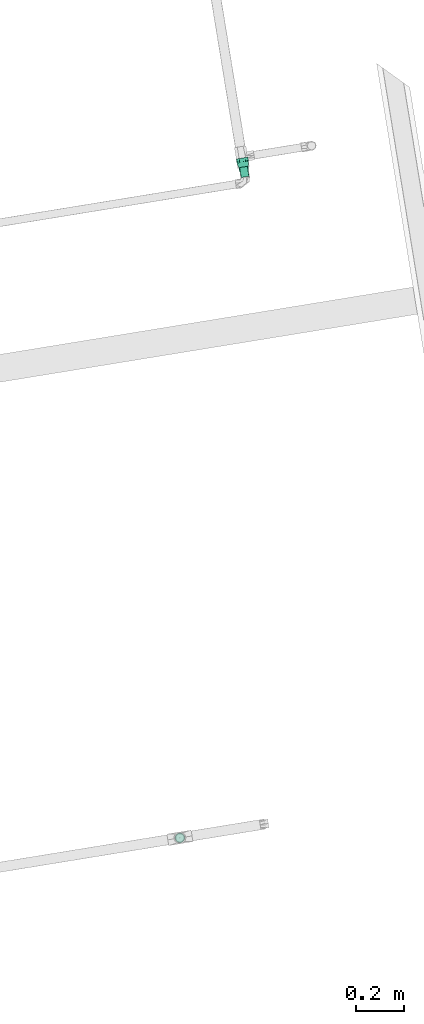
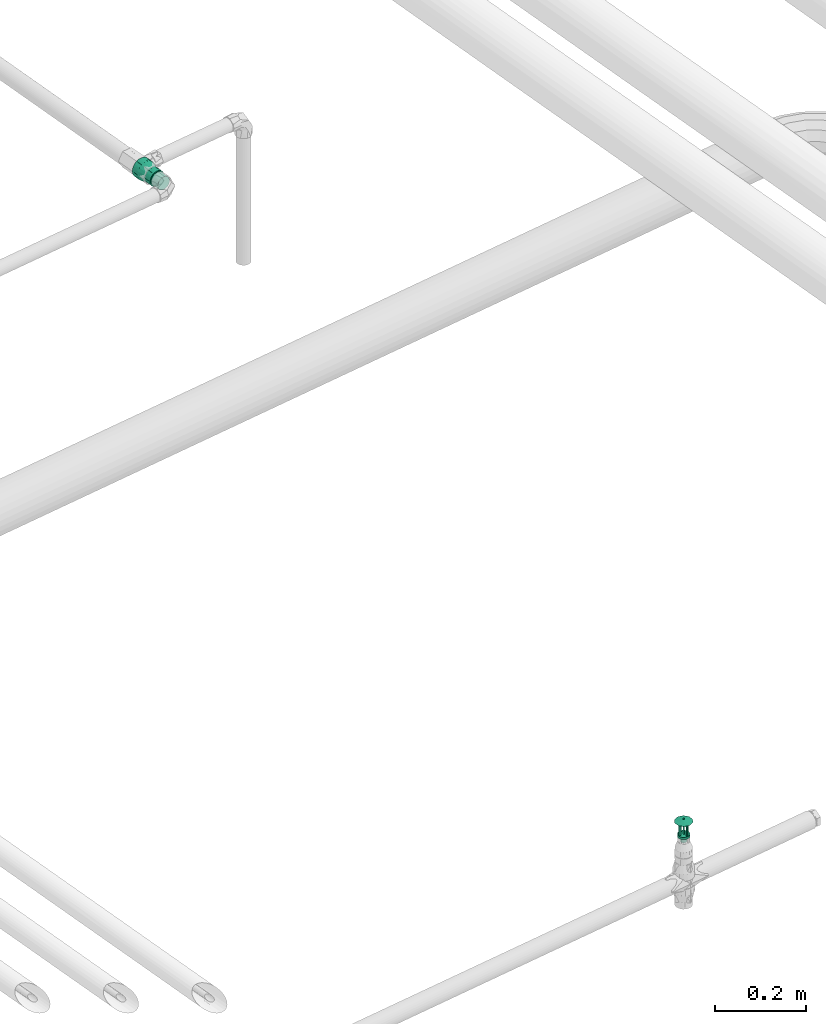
# One storey, part 40 of 46: 1 flow fitting, 1 flow segment, 1 flow terminal.
"""IFC2X3 building model written with IfcOpenShell, lengths in millimetres."""

from ifc_helpers import new_model, entity, si_unit, converted_unit, derived_unit, direction, frame, origin, origin_with_axes, origin_2d_with_axis, place, context, subcontext, project, spatial, circle, extrude, faceted_brep, source, transform, mapped, material, type_object, element, save


model = new_model("IFC2X3")

# Units and contexts
model_context = context("Model", 3, precision=0.01, world=origin(), true_north=direction((6.12323399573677e-17, 1.0)))
plan_context = context("Plan", 3, precision=1e-05, world=origin_with_axes())
body_context = subcontext(model_context, "Body", "Model", "MODEL_VIEW")
ifc_project = project(units=[converted_unit("PLANEANGLEUNIT", "DEGREE", entity("IfcPositiveLengthMeasure", 0.0174532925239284), si_unit("PLANEANGLEUNIT", "RADIAN"), dimensions=[0, 0, 0, 0, 0, 0, 0]), si_unit("AREAUNIT", "SQUARE_METRE"), si_unit("LENGTHUNIT", "METRE", prefix="MILLI"), si_unit("MASSUNIT", "GRAM", prefix="KILO"), si_unit("POWERUNIT", "WATT"), si_unit("PRESSUREUNIT", "PASCAL", prefix="KILO"), si_unit("FORCEUNIT", "NEWTON", prefix="KILO"), si_unit("ELECTRICVOLTAGEUNIT", "VOLT"), si_unit("ELECTRICCURRENTUNIT", "AMPERE"), si_unit("THERMODYNAMICTEMPERATUREUNIT", "DEGREE_CELSIUS"), si_unit("TIMEUNIT", "SECOND"), si_unit("VOLUMEUNIT", "CUBIC_METRE"), derived_unit("LINEARVELOCITYUNIT", [(si_unit("LENGTHUNIT", "METRE"), 1), (si_unit("TIMEUNIT", "SECOND"), -1)]), derived_unit("VOLUMETRICFLOWRATEUNIT", [(si_unit("VOLUMEUNIT", "CUBIC_METRE"), 1), (si_unit("TIMEUNIT", "SECOND"), -1)]), derived_unit("THERMALTRANSMITTANCEUNIT", [(si_unit("POWERUNIT", "WATT"), 1), (si_unit("THERMODYNAMICTEMPERATUREUNIT", "KELVIN"), -1), (si_unit("AREAUNIT", "SQUARE_METRE"), -1)]), derived_unit("SOUNDPRESSUREUNIT", [(si_unit("PRESSUREUNIT", "PASCAL"), 1)])], contexts=[model_context, plan_context])

# Site, building, storey
site_placement = place(None, frame((-3.09682673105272e-06, 1.93776733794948e-05, 0.0), z_axis=(0.0, 0.0, 1.0), x_axis=(-0.160806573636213, 0.986985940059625, 0.0)))
site = spatial("IfcSite", under=ifc_project, at=site_placement, Name="Default", CompositionType="ELEMENT")
building_placement = place(site_placement, frame((0.0, 0.0, 0.0), z_axis=(0.0, 0.0, 1.0), x_axis=(1.0, -2.77555756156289e-17, 0.0)))
building = spatial("IfcBuilding", under=site, at=building_placement, Name="Bygning (endres i Project Information)", CompositionType="ELEMENT")
storey_placement = place(building_placement, frame((0.0, 0.0, 51360.0000000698), z_axis=(0.0, 0.0, 1.0), x_axis=(1.0, -2.77555756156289e-17, 0.0)))
storey = spatial("IfcBuildingStorey", under=building, at=storey_placement, Name="H01-Nivå D+0,36", CompositionType="ELEMENT", Elevation=51360.0000000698)

# Flow fitting
ifc_material = material(Name="3320.001")
pipe_fitting_type = type_object("IfcPipeFittingType", Name="RS_53_PIF_UN_Reducing-Socket-EN10241_MC_gen:RS_53_PIF_UN_Reducing-Socket-EN10241_MC_gen", PredefinedType="NOTDEFINED", material=ifc_material)
shared_shape_1 = source(origin(), body_context, "Body", "Brep", [
    faceted_brep([(0.0, 0.0, 24.5), (0.0, 6.34106660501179, 23.6651827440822), (0.0, 12.25, 21.2176223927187), (0.0, 17.3241161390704, 17.3241161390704), (0.0, 21.2176223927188, 12.25), (0.0, 23.6651827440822, 6.34106660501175), (0.0, 24.5, 0.0), (0.0, 23.6651827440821, -6.34106660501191), (0.0, 21.2176223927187, -12.2500000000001), (0.0, 17.3241161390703, -17.3241161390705), (0.0, 12.2499999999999, -21.2176223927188), (0.0, 6.34106660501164, -23.6651827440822), (0.0, 0.0, -24.5), (0.0, -6.34106660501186, -23.6651827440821), (0.0, -12.2500000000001, -21.2176223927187), (0.0, -17.3241161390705, -17.3241161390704), (0.0, -21.2176223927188, -12.2499999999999), (0.0, -23.6651827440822, -6.34106660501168), (0.0, -24.5, 0.0), (0.0, -23.6651827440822, 6.34106660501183), (0.0, -21.2176223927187, 12.2500000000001), (0.0, -17.3241161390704, 17.3241161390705), (0.0, -12.25, 21.2176223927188), (0.0, -6.34106660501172, 23.6651827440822), (18.6666666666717, -8.25137606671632, -22.6729794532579), (18.6666666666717, -18.7677686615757, -15.7486780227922), (18.6666666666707, -20.8950763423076, -12.0642027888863), (18.6666666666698, -23.0223840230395, -8.37972755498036), (18.6666666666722, -12.2493529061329, -21.2179959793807), (18.6666666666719, -15.5085607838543, -18.4833370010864), (18.6666666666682, -23.7125607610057, -4.46565710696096), (18.6666666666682, -23.7611920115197, -4.18986377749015), (18.6666666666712, -4.25339922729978, -24.1279629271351), (18.6666666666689, 4.25560674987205, -24.1275736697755), (18.6666666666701, 0.00110376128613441, -24.1277682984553), (18.6666666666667, -24.5, 0.0), (18.6666666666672, 8.25345045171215, -22.6722244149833), (18.6666666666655, 12.2512941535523, -21.2168751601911), (18.6666666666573, 23.0231506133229, -8.37762113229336), (18.6666666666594, 20.8961800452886, -12.062290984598), (18.6666666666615, 18.7692094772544, -15.7469608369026), (18.6666666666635, 15.5102518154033, -18.4819179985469), (18.6666666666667, 24.5, 0.0), (18.6666666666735, 18.7692094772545, 15.7469608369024), (18.666666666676, 20.8961800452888, 12.0622909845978), (18.6666666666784, 23.023150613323, 8.3776211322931), (18.6666666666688, 12.2512941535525, 21.216875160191), (18.6666666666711, 15.5102518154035, 18.4819179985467), (18.6666666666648, 4.25560674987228, 24.1275736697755), (18.6666666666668, 8.25345045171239, 22.6722244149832), (18.6666666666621, -4.25339922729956, 24.1279629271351), (18.6666666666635, 0.00110376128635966, 24.1277682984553), (18.6666666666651, -23.7611920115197, 4.1898637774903), (18.6666666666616, -8.25137606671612, 22.672979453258), (18.666666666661, -12.2493529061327, 21.2179959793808), (18.6666666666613, -15.5085607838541, 18.4833370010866), (18.6666666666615, -18.7677686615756, 15.7486780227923), (18.6666666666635, -23.0223840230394, 8.37972755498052), (18.6666666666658, -23.7125607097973, 4.46565739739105), (18.6666666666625, -20.8950763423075, 12.0642027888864), (37.3333333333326, 19.750000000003, 0.0), (37.3333333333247, 18.5595959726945, -6.75306577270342), (37.3333333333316, 9.87626627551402, -17.1032705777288), (37.3333333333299, 12.5033702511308, -14.8985095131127), (37.3333333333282, 15.1304742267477, -12.6937484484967), (37.3333333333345, 3.43075149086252, -19.4497414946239), (37.333333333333, 6.65350888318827, -18.2765060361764), (37.3333333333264, 16.8450350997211, -9.72340711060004), (37.3333333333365, -3.42859151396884, -19.4501223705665), (37.3333333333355, 0.00107998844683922, -19.4499319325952), (37.3333333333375, -9.87436684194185, -17.1043672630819), (37.333333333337, -6.65147917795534, -18.2772448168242), (37.3333333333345, -19.1544229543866, -3.37756341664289), (37.3333333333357, -18.558845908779, -6.75512683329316), (37.3333333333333, -19.7499999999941, 0.0), (37.3333333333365, -16.8439551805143, -9.72527774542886), (37.3333333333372, -15.1290644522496, -12.6954286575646), (37.3333333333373, -12.5017156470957, -14.8998979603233), (37.3333333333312, -18.5588459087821, 6.755126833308), (37.3333333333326, -19.1544229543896, 3.37756341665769), (37.3333333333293, -15.1290644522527, 12.6954286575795), (37.3333333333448, 18.559595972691, 6.75306577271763), (37.3333333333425, 16.8450350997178, 9.72340711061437), (37.3333333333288, -9.87436684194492, 17.104367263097), (37.3333333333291, -12.5017156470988, 14.8998979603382), (37.3333333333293, -6.65147917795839, 18.2772448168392), (37.3333333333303, -16.8439551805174, 9.72527774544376), (37.333333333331, 0.00107998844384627, 19.4499319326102), (37.3333333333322, 3.43075149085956, 19.4497414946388), (37.3333333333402, 15.1304742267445, 12.6937484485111), (37.333333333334, 6.65350888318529, 18.2765060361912), (37.3333333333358, 9.87626627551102, 17.1032705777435), (37.333333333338, 12.5033702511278, 14.8985095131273), (37.3333333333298, -3.42859151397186, 19.4501223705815), (56.0, 5.11167614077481, -19.0770350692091), (56.0, 9.87500000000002, -17.1040017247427), (56.0, 13.9653589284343, -13.9653589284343), (56.0, 17.1040017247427, -9.87499999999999), (56.0, 19.0770350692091, -5.11167614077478), (56.0, 19.75, 0.0), (56.0, 19.0770350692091, 5.1116761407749), (56.0, 17.1040017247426, 9.8750000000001), (56.0, 13.9653589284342, 13.9653589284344), (56.0, 9.87499999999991, 17.1040017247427), (56.0, 5.11167614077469, 19.0770350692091), (56.0, 0.0, 19.75), (56.0, -5.11167614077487, 19.0770350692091), (56.0, -9.87500000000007, 17.1040017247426), (56.0, -13.9653589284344, 13.9653589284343), (56.0, -17.1040017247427, 9.87499999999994), (56.0, -19.0770350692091, 5.11167614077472), (56.0, -19.75, 0.0), (56.0, -19.0770350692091, -5.11167614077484), (56.0, -17.1040017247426, -9.87500000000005), (56.0, -13.9653589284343, -13.9653589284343), (56.0, -9.87499999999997, -17.1040017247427), (56.0, -5.11167614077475, -19.0770350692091), (56.0, 0.0, -19.75)], [[[0, 1, 2, 3, 4, 5, 6, 7, 8, 9, 10, 11, 12, 13, 14, 15, 16, 17, 18, 19, 20, 21, 22, 23]], [[24, 14, 13]], [[16, 15, 25]], [[16, 25, 26, 27]], [[28, 29, 14]], [[17, 27, 30, 31]], [[31, 18, 17]], [[16, 27, 17]], [[13, 32, 24]], [[25, 15, 29]], [[12, 33, 34, 32]], [[24, 28, 14]], [[14, 29, 15]], [[31, 35, 18]], [[33, 12, 11]], [[36, 10, 37]], [[8, 38, 39, 40]], [[10, 36, 11]], [[8, 7, 38]], [[9, 40, 41]], [[33, 11, 36]], [[8, 40, 9]], [[41, 37, 10]], [[7, 42, 38]], [[7, 6, 42]], [[12, 32, 13]], [[41, 10, 9]], [[42, 6, 5]], [[4, 3, 43]], [[4, 43, 44, 45]], [[46, 47, 2]], [[45, 42, 5]], [[1, 48, 49]], [[43, 3, 47]], [[0, 50, 51, 48]], [[2, 47, 3]], [[50, 0, 23]], [[0, 48, 1]], [[18, 52, 19]], [[53, 22, 54]], [[49, 2, 1]], [[55, 22, 21]], [[35, 52, 18]], [[4, 45, 5]], [[22, 53, 23]], [[21, 56, 55]], [[50, 23, 53]], [[49, 46, 2]], [[20, 56, 21]], [[57, 20, 19]], [[19, 52, 58, 57]], [[55, 54, 22]], [[59, 56, 20, 57]], [[42, 60, 61]], [[41, 62, 37]], [[63, 40, 64]], [[40, 39, 64]], [[33, 36, 65]], [[65, 36, 66]], [[38, 42, 61]], [[64, 39, 67]], [[41, 40, 63]], [[36, 37, 66]], [[62, 41, 63]], [[38, 67, 39]], [[68, 34, 69]], [[68, 32, 34]], [[24, 70, 28]], [[32, 68, 71]], [[72, 35, 31, 30]], [[73, 27, 26]], [[72, 74, 35]], [[26, 75, 73]], [[76, 25, 29]], [[29, 77, 76]], [[70, 24, 71]], [[24, 32, 71]], [[70, 77, 28]], [[76, 75, 25]], [[28, 77, 29]], [[25, 75, 26]], [[73, 30, 27]], [[30, 73, 72]], [[66, 37, 62]], [[69, 34, 33]], [[69, 33, 65]], [[67, 38, 61]], [[78, 58, 79]], [[80, 55, 56]], [[81, 45, 82]], [[78, 59, 57]], [[83, 53, 54]], [[55, 80, 84]], [[79, 58, 52, 35]], [[78, 57, 58]], [[84, 54, 55]], [[85, 50, 53]], [[79, 35, 74]], [[86, 56, 59]], [[84, 83, 54]], [[48, 87, 88]], [[49, 48, 88]], [[59, 78, 86]], [[53, 83, 85]], [[87, 48, 51]], [[81, 60, 42]], [[44, 43, 89]], [[90, 46, 49]], [[47, 46, 91]], [[86, 80, 56]], [[82, 45, 44]], [[49, 88, 90]], [[92, 43, 47]], [[91, 46, 90]], [[51, 50, 93]], [[42, 45, 81]], [[85, 93, 50]], [[44, 89, 82]], [[51, 93, 87]], [[47, 91, 92]], [[89, 43, 92]], [[94, 95, 96, 97, 98, 99, 100, 101, 102, 103, 104, 105, 106, 107, 108, 109, 110, 111, 112, 113, 114, 115, 116, 117]], [[60, 99, 98]], [[97, 96, 64]], [[97, 64, 67, 61]], [[62, 63, 95]], [[61, 60, 98]], [[94, 65, 66]], [[64, 96, 63]], [[117, 68, 69, 65]], [[95, 63, 96]], [[117, 116, 68]], [[77, 70, 115]], [[66, 95, 94]], [[115, 70, 71]], [[113, 112, 73]], [[115, 71, 116]], [[117, 65, 94]], [[97, 61, 98]], [[72, 111, 74]], [[71, 68, 116]], [[113, 76, 114]], [[114, 76, 77]], [[77, 115, 114]], [[113, 73, 75, 76]], [[111, 72, 112]], [[66, 62, 95]], [[72, 73, 112]], [[85, 107, 106]], [[109, 108, 80]], [[109, 80, 86, 78]], [[83, 84, 107]], [[110, 78, 79]], [[79, 111, 110]], [[109, 78, 110]], [[106, 93, 85]], [[80, 108, 84]], [[105, 88, 87, 93]], [[85, 83, 107]], [[107, 84, 108]], [[79, 74, 111]], [[88, 105, 104]], [[90, 103, 91]], [[101, 81, 82, 89]], [[103, 90, 104]], [[101, 100, 81]], [[102, 89, 92]], [[88, 104, 90]], [[101, 89, 102]], [[92, 91, 103]], [[100, 60, 81]], [[100, 99, 60]], [[105, 93, 106]], [[92, 103, 102]]]),
])
flow_fitting_placement = place(storey_placement, frame((1009033.50371086, -355726.047207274, 3400.0), z_axis=(0.0, 0.0, 1.0), x_axis=(-1.0, 2.77555756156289e-17, 0.0)))
element("IfcFlowFitting", 1, at=flow_fitting_placement, inside=storey, type_object=pipe_fitting_type, material=ifc_material, Name="RS_53_PIF_UN_Reducing-Socket-EN10241_MC_gen:RS_53_PIF_UN_Reducing-Socket-EN10241_MC_gen", ObjectType="RS_53_PIF_UN_Reducing-Socket-EN10241_MC_gen:RS_53_PIF_UN_Reducing-Socket-EN10241_MC_gen", context=body_context, shape_type="MappedRepresentation", body=[
    mapped(shared_shape_1, transform((0.0, 0.0, 0.0), scale=1.0)),
])

# Flow terminal
fire_suppression_terminal_type = type_object("IfcFireSuppressionTerminalType", Name="SU-15-K80-68DGR-STD:SU-15-K80-68DGR-STD", PredefinedType="NOTDEFINED", material=ifc_material)
shared_shape_2 = source(origin(), body_context, "Body", "Brep", [
    faceted_brep([(-2.5, 0.0, 62.0), (0.0, -2.5, 62.0), (2.5, 0.0, 62.0), (0.0, 2.5, 62.0), (0.0, 2.5, 59.0), (2.5, 0.0, 59.0), (0.0, -2.5, 59.0), (-2.5, 0.0, 59.0)], [[[0, 1, 2, 3]], [[4, 5, 6, 7]], [[3, 4, 7, 0]], [[2, 5, 4, 3]], [[1, 6, 5, 2]], [[0, 7, 6, 1]]]),
    faceted_brep([(1.0, 13.5, 47.0), (1.0, -13.5, 47.0), (1.0, -13.5, 19.0), (1.0, -8.5, 19.0), (1.0, -8.5, 42.0), (1.0, 8.5, 42.0), (1.0, 8.5, 19.0), (1.0, 13.5, 19.0), (-1.0, 13.5, 47.0), (-1.0, 13.5, 19.0), (-1.0, 8.5, 19.0), (-1.0, 8.5, 42.0), (-1.0, -8.5, 42.0), (-1.0, -8.5, 19.0), (-1.0, -13.5, 19.0), (-1.0, -13.5, 47.0)], [[[0, 1, 2, 3, 4, 5, 6, 7]], [[8, 9, 10, 11, 12, 13, 14, 15]], [[7, 9, 8, 0]], [[6, 10, 9, 7]], [[5, 11, 10, 6]], [[4, 12, 11, 5]], [[3, 13, 12, 4]], [[2, 14, 13, 3]], [[1, 15, 14, 2]], [[0, 8, 15, 1]]]),
    faceted_brep([(-13.5, -1.0, 47.0), (-13.5, -1.0, 19.0), (-8.5, -1.0, 19.0), (-8.5, -1.0, 42.0), (8.5, -1.0, 42.0), (8.5, -1.0, 19.0), (13.5, -1.0, 19.0), (13.5, -1.0, 47.0), (-13.5, 1.0, 47.0), (13.5, 1.0, 47.0), (13.5, 1.0, 19.0), (8.5, 1.0, 19.0), (8.5, 1.0, 42.0), (-8.5, 1.0, 42.0), (-8.5, 1.0, 19.0), (-13.5, 1.0, 19.0)], [[[0, 1, 2, 3, 4, 5, 6, 7]], [[8, 9, 10, 11, 12, 13, 14, 15]], [[7, 9, 8, 0]], [[6, 10, 9, 7]], [[5, 11, 10, 6]], [[4, 12, 11, 5]], [[3, 13, 12, 4]], [[2, 14, 13, 3]], [[1, 15, 14, 2]], [[0, 8, 15, 1]]]),
    faceted_brep([(2.5, 0.0, 59.0), (0.0, 2.5, 59.0), (-2.5, 0.0, 59.0), (0.0, -2.5, 59.0), (-6.48935688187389, -19.9721868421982, 53.0), (-16.9893568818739, -12.3434902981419, 53.0), (-21.0, 0.0, 53.0), (-16.9893568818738, 12.343490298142, 53.0), (-6.48935688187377, 19.9721868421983, 53.0), (6.48935688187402, 19.9721868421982, 53.0), (16.989356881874, 12.3434902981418, 53.0), (21.0, 0.0, 53.0), (16.9893568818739, -12.3434902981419, 53.0), (6.4893568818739, -19.9721868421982, 53.0)], [[[0, 1, 2, 3]], [[4, 5, 6, 7, 8, 9, 10, 11, 12, 13]], [[10, 0, 11]], [[10, 9, 1]], [[1, 0, 10]], [[7, 2, 1]], [[8, 7, 1]], [[6, 2, 7]], [[9, 8, 1]], [[5, 2, 6]], [[5, 4, 3]], [[3, 2, 5]], [[12, 0, 3]], [[13, 12, 3]], [[11, 0, 12]], [[4, 13, 3]]]),
    faceted_brep([(-2.5, 0.0, 53.0), (0.0, -2.5, 53.0), (2.5, 0.0, 53.0), (0.0, 2.5, 53.0), (0.0, 2.5, 19.0), (2.5, 0.0, 19.0), (0.0, -2.5, 19.0), (-2.5, 0.0, 19.0)], [[[0, 1, 2, 3]], [[4, 5, 6, 7]], [[3, 4, 7, 0]], [[2, 5, 4, 3]], [[1, 6, 5, 2]], [[0, 7, 6, 1]]]),
    faceted_brep([(7.0, 12.1243556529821, 19.0), (3.62346663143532, 13.5229615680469, 19.0), (0.0, 14.0, 19.0), (-3.62346663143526, 13.522961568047, 19.0), (-7.0, 12.1243556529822, 19.0), (-9.89949493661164, 9.89949493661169, 19.0), (-12.1243556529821, 7.0, 19.0), (-13.5229615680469, 3.62346663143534, 19.0), (-14.0, 0.0, 19.0), (-13.5229615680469, -3.62346663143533, 19.0), (-12.1243556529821, -7.0, 19.0), (-9.89949493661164, -9.89949493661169, 19.0), (-7.0, -12.1243556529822, 19.0), (-3.62346663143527, -13.522961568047, 19.0), (0.0, -14.0, 19.0), (3.62346663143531, -13.522961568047, 19.0), (7.0, -12.1243556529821, 19.0), (9.89949493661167, -9.89949493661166, 19.0), (12.1243556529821, -7.0, 19.0), (13.522961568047, -3.62346663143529, 19.0), (14.0, 0.0, 19.0), (13.522961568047, 3.62346663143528, 19.0), (12.1243556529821, 7.0, 19.0), (9.89949493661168, 9.89949493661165, 19.0), (9.89949493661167, -9.89949493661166, 13.0), (7.0, -12.1243556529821, 13.0), (3.62346663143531, -13.522961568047, 13.0), (0.0, -14.0, 13.0), (-3.62346663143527, -13.522961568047, 13.0), (-7.0, -12.1243556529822, 13.0), (-9.89949493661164, -9.89949493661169, 13.0), (-12.1243556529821, -7.0, 13.0), (-13.5229615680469, -3.62346663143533, 13.0), (-14.0, 0.0, 13.0), (-13.5229615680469, 3.62346663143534, 13.0), (-12.1243556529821, 7.0, 13.0), (-9.89949493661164, 9.89949493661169, 13.0), (-7.0, 12.1243556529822, 13.0), (-3.62346663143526, 13.522961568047, 13.0), (0.0, 14.0, 13.0), (3.62346663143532, 13.5229615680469, 13.0), (7.0, 12.1243556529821, 13.0), (9.89949493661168, 9.89949493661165, 13.0), (12.1243556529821, 7.0, 13.0), (13.522961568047, 3.62346663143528, 13.0), (14.0, 0.0, 13.0), (13.522961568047, -3.62346663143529, 13.0), (12.1243556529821, -7.0, 13.0)], [[[0, 1, 2, 3, 4, 5, 6, 7, 8, 9, 10, 11, 12, 13, 14, 15, 16, 17, 18, 19, 20, 21, 22, 23]], [[24, 25, 26, 27, 28, 29, 30, 31, 32, 33, 34, 35, 36, 37, 38, 39, 40, 41, 42, 43, 44, 45, 46, 47]], [[33, 8, 7, 34]], [[34, 7, 6, 35]], [[37, 36, 5, 4]], [[5, 36, 35, 6]], [[38, 37, 4, 3]], [[38, 3, 2, 39]], [[39, 2, 1, 40]], [[40, 1, 0, 41]], [[43, 42, 23, 22]], [[23, 42, 41, 0]], [[44, 43, 22, 21]], [[44, 21, 20, 45]], [[45, 20, 19, 46]], [[46, 19, 18, 47]], [[25, 24, 17, 16]], [[17, 24, 47, 18]], [[26, 25, 16, 15]], [[26, 15, 14, 27]], [[27, 14, 13, 28]], [[28, 13, 12, 29]], [[31, 30, 11, 10]], [[11, 30, 29, 12]], [[32, 31, 10, 9]], [[32, 9, 8, 33]]]),
    faceted_brep([(3.75000000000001, 6.49519052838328, 13.0), (1.94114283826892, 7.24444369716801, 13.0), (0.0, 7.5, 13.0), (-1.94114283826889, 7.24444369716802, 13.0), (-3.74999999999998, 6.4951905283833, 13.0), (-5.30330085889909, 5.30330085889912, 13.0), (-6.49519052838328, 3.75000000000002, 13.0), (-7.244443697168, 1.94114283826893, 13.0), (-7.5, 0.0, 13.0), (-7.24444369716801, -1.94114283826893, 13.0), (-6.49519052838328, -3.75000000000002, 13.0), (-5.3033008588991, -5.30330085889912, 13.0), (-3.74999999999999, -6.4951905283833, 13.0), (-1.94114283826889, -7.24444369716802, 13.0), (0.0, -7.5, 13.0), (1.94114283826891, -7.24444369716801, 13.0), (3.75000000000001, -6.49519052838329, 13.0), (5.30330085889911, -5.3033008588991, 13.0), (6.49519052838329, -3.75, 13.0), (7.24444369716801, -1.9411428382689, 13.0), (7.5, 0.0, 13.0), (7.24444369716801, 1.9411428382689, 13.0), (6.49519052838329, 3.75, 13.0), (5.30330085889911, 5.3033008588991, 13.0), (5.30330085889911, -5.3033008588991, 0.0), (3.75000000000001, -6.49519052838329, 0.0), (1.94114283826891, -7.24444369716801, 0.0), (0.0, -7.5, 0.0), (-1.94114283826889, -7.24444369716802, 0.0), (-3.74999999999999, -6.4951905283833, 0.0), (-5.3033008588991, -5.30330085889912, 0.0), (-6.49519052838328, -3.75000000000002, 0.0), (-7.24444369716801, -1.94114283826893, 0.0), (-7.5, 0.0, 0.0), (-7.244443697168, 1.94114283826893, 0.0), (-6.49519052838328, 3.75000000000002, 0.0), (-5.30330085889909, 5.30330085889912, 0.0), (-3.74999999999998, 6.4951905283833, 0.0), (-1.94114283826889, 7.24444369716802, 0.0), (0.0, 7.5, 0.0), (1.94114283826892, 7.24444369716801, 0.0), (3.75000000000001, 6.49519052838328, 0.0), (5.30330085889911, 5.3033008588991, 0.0), (6.49519052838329, 3.75, 0.0), (7.24444369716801, 1.9411428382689, 0.0), (7.5, 0.0, 0.0), (7.24444369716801, -1.9411428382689, 0.0), (6.49519052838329, -3.75, 0.0)], [[[0, 1, 2, 3, 4, 5, 6, 7, 8, 9, 10, 11, 12, 13, 14, 15, 16, 17, 18, 19, 20, 21, 22, 23]], [[24, 25, 26, 27, 28, 29, 30, 31, 32, 33, 34, 35, 36, 37, 38, 39, 40, 41, 42, 43, 44, 45, 46, 47]], [[33, 8, 7, 34]], [[34, 7, 6, 35]], [[37, 36, 5, 4]], [[5, 36, 35, 6]], [[38, 37, 4, 3]], [[38, 3, 2, 39]], [[39, 2, 1, 40]], [[40, 1, 0, 41]], [[43, 42, 23, 22]], [[23, 42, 41, 0]], [[44, 43, 22, 21]], [[44, 21, 20, 45]], [[45, 20, 19, 46]], [[46, 19, 18, 47]], [[25, 24, 17, 16]], [[17, 24, 47, 18]], [[26, 25, 16, 15]], [[26, 15, 14, 27]], [[27, 14, 13, 28]], [[28, 13, 12, 29]], [[31, 30, 11, 10]], [[11, 30, 29, 12]], [[32, 31, 10, 9]], [[32, 9, 8, 33]]]),
])
flow_terminal_placement = place(storey_placement, frame((1006288.36764383, -355017.329195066, 3401.99999993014), z_axis=(0.0, 0.0, 1.0), x_axis=(-1.0, 2.77555756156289e-17, 0.0)))
element("IfcFlowTerminal", 2, at=flow_terminal_placement, inside=storey, type_object=fire_suppression_terminal_type, material=ifc_material, Name="SU-15-K80-68DGR-STD:SU-15-K80-68DGR-STD", ObjectType="SU-15-K80-68DGR-STD:SU-15-K80-68DGR-STD", context=body_context, shape_type="MappedRepresentation", body=[
    mapped(shared_shape_2, transform((0.0, 0.0, 0.0), scale=1.0)),
])

# Flow segment
pipe_segment_type = type_object("IfcPipeSegmentType", Name="Pipe Types:Stålrør sveist og gjenget", PredefinedType="NOTDEFINED", material=ifc_material)
flow_segment_placement = place(storey_placement, frame((0.0, 0.0, 0.0), z_axis=(0.0, 0.0, 1.0), x_axis=(1.0, -2.77555756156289e-17, 0.0)))
element("IfcFlowSegment", 3, at=flow_segment_placement, inside=storey, type_object=pipe_segment_type, Name="Pipe Types:Stålrør sveist og gjenget", ObjectType="Pipe Types:Stålrør sveist og gjenget", context=body_context, shape_type="SweptSolid", body=[
    extrude(circle(Radius=16.8500004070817, at=origin_2d_with_axis()), frame((1008954.36730193, -355726.047207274, 3400.0), z_axis=(1.0, 0.0, 0.0), x_axis=(0.0, 1.0, 0.0)), (0.0, 0.0, 1.0), 41.8030755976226),
])

save(model, "model.ifc")
